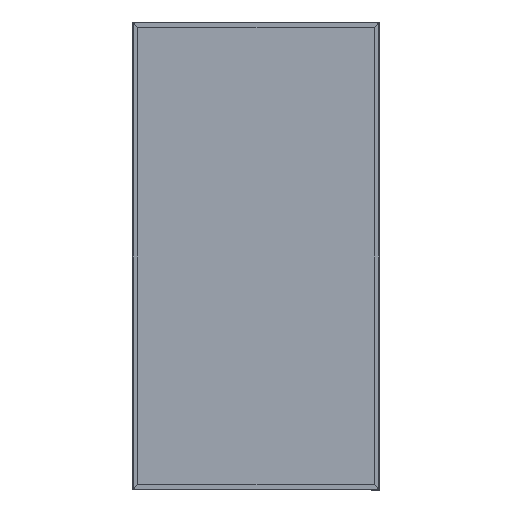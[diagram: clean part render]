
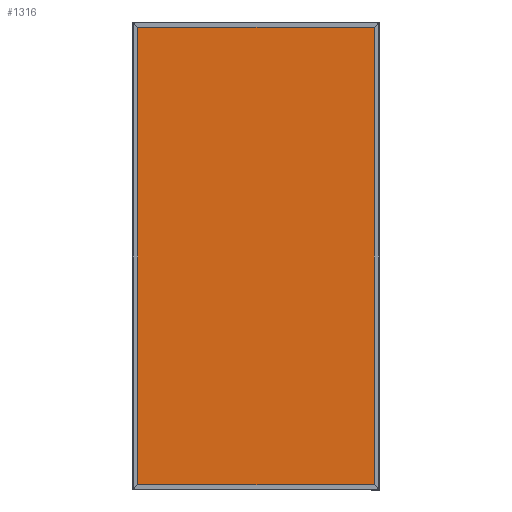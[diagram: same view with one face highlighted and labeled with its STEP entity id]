
A CAD part, front view. The second image highlights one B-rep face of the part: STEP entity #1316.
In plain terms, the highlighted planar face has unit normal (0, -1, 0).
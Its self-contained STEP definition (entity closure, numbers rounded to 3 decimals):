
#98=FACE_OUTER_BOUND('',#171,.T.);
#171=EDGE_LOOP('',(#1063,#1064,#1065,#1066,#1067,#1068,#1069,#1070,#1071,
#1072,#1073,#1074));
#264=LINE('',#1948,#428);
#267=LINE('',#1952,#431);
#274=LINE('',#1966,#438);
#277=LINE('',#1973,#441);
#281=LINE('',#1979,#445);
#288=LINE('',#1993,#452);
#293=LINE('',#2004,#457);
#296=LINE('',#2008,#460);
#300=LINE('',#2016,#464);
#308=LINE('',#2032,#472);
#312=LINE('',#2039,#476);
#318=LINE('',#2060,#482);
#428=VECTOR('',#1558,10.);
#431=VECTOR('',#1563,10.);
#438=VECTOR('',#1576,10.);
#441=VECTOR('',#1581,10.);
#445=VECTOR('',#1589,10.);
#452=VECTOR('',#1604,10.);
#457=VECTOR('',#1615,10.);
#460=VECTOR('',#1620,10.);
#464=VECTOR('',#1628,10.);
#472=VECTOR('',#1644,10.);
#476=VECTOR('',#1652,10.);
#482=VECTOR('',#1672,10.);
#534=VERTEX_POINT('',#1828);
#545=VERTEX_POINT('',#1855);
#557=VERTEX_POINT('',#1886);
#568=VERTEX_POINT('',#1913);
#578=VERTEX_POINT('',#1947);
#582=VERTEX_POINT('',#1964);
#584=VERTEX_POINT('',#1970);
#585=VERTEX_POINT('',#1972);
#591=VERTEX_POINT('',#2003);
#593=VERTEX_POINT('',#2014);
#597=VERTEX_POINT('',#2030);
#598=VERTEX_POINT('',#2034);
#712=EDGE_CURVE('',#545,#578,#264,.T.);
#715=EDGE_CURVE('',#578,#568,#267,.T.);
#722=EDGE_CURVE('',#582,#545,#274,.T.);
#725=EDGE_CURVE('',#584,#585,#277,.T.);
#729=EDGE_CURVE('',#585,#557,#281,.T.);
#736=EDGE_CURVE('',#568,#584,#288,.T.);
#741=EDGE_CURVE('',#534,#591,#293,.T.);
#744=EDGE_CURVE('',#591,#582,#296,.T.);
#748=EDGE_CURVE('',#593,#534,#300,.T.);
#756=EDGE_CURVE('',#597,#593,#308,.T.);
#760=EDGE_CURVE('',#598,#597,#312,.T.);
#770=EDGE_CURVE('',#557,#598,#318,.T.);
#1063=ORIENTED_EDGE('',*,*,#756,.F.);
#1064=ORIENTED_EDGE('',*,*,#760,.F.);
#1065=ORIENTED_EDGE('',*,*,#770,.F.);
#1066=ORIENTED_EDGE('',*,*,#729,.F.);
#1067=ORIENTED_EDGE('',*,*,#725,.F.);
#1068=ORIENTED_EDGE('',*,*,#736,.F.);
#1069=ORIENTED_EDGE('',*,*,#715,.F.);
#1070=ORIENTED_EDGE('',*,*,#712,.F.);
#1071=ORIENTED_EDGE('',*,*,#722,.F.);
#1072=ORIENTED_EDGE('',*,*,#744,.F.);
#1073=ORIENTED_EDGE('',*,*,#741,.F.);
#1074=ORIENTED_EDGE('',*,*,#748,.F.);
#1256=PLANE('',#1406);
#1316=ADVANCED_FACE('',(#98),#1256,.F.);
#1406=AXIS2_PLACEMENT_3D('',#2061,#1673,#1674);
#1558=DIRECTION('',(0.,0.,1.));
#1563=DIRECTION('',(1.,0.,0.));
#1576=DIRECTION('',(0.,0.,1.));
#1581=DIRECTION('',(1.,0.,0.));
#1589=DIRECTION('',(0.,0.,-1.));
#1604=DIRECTION('',(1.,0.,0.));
#1615=DIRECTION('',(-1.,0.,0.));
#1620=DIRECTION('',(0.,0.,1.));
#1628=DIRECTION('',(-1.,0.,0.));
#1644=DIRECTION('',(-1.,0.,0.));
#1652=DIRECTION('',(0.,0.,-1.));
#1672=DIRECTION('',(0.,0.,-1.));
#1673=DIRECTION('center_axis',(0.,1.,0.));
#1674=DIRECTION('ref_axis',(0.,0.,1.));
#1828=CARTESIAN_POINT('',(-155.217,-29.,-300.345));
#1855=CARTESIAN_POINT('',(-155.5,-29.,300.372));
#1886=CARTESIAN_POINT('',(155.5,-29.,300.372));
#1913=CARTESIAN_POINT('',(-155.217,-29.,300.655));
#1947=CARTESIAN_POINT('',(-155.5,-29.,300.655));
#1948=CARTESIAN_POINT('',(-155.5,-29.,300.655));
#1952=CARTESIAN_POINT('',(155.5,-29.,300.655));
#1964=CARTESIAN_POINT('',(-155.5,-29.,-300.063));
#1966=CARTESIAN_POINT('',(-155.5,-29.,300.655));
#1970=CARTESIAN_POINT('',(155.217,-29.,300.655));
#1972=CARTESIAN_POINT('',(155.5,-29.,300.655));
#1973=CARTESIAN_POINT('',(155.5,-29.,300.655));
#1979=CARTESIAN_POINT('',(155.5,-29.,-300.345));
#1993=CARTESIAN_POINT('',(155.5,-29.,300.655));
#2003=CARTESIAN_POINT('',(-155.5,-29.,-300.345));
#2004=CARTESIAN_POINT('',(-155.5,-29.,-300.345));
#2008=CARTESIAN_POINT('',(-155.5,-29.,300.655));
#2014=CARTESIAN_POINT('',(155.217,-29.,-300.345));
#2016=CARTESIAN_POINT('',(-155.5,-29.,-300.345));
#2030=CARTESIAN_POINT('',(155.5,-29.,-300.345));
#2032=CARTESIAN_POINT('',(-155.5,-29.,-300.345));
#2034=CARTESIAN_POINT('',(155.5,-29.,-300.063));
#2039=CARTESIAN_POINT('',(155.5,-29.,-300.345));
#2060=CARTESIAN_POINT('',(155.5,-29.,-300.345));
#2061=CARTESIAN_POINT('Origin',(0.,-29.,0.155));
